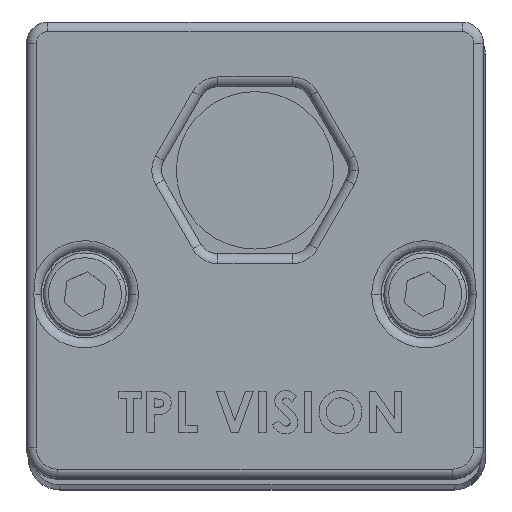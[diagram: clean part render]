
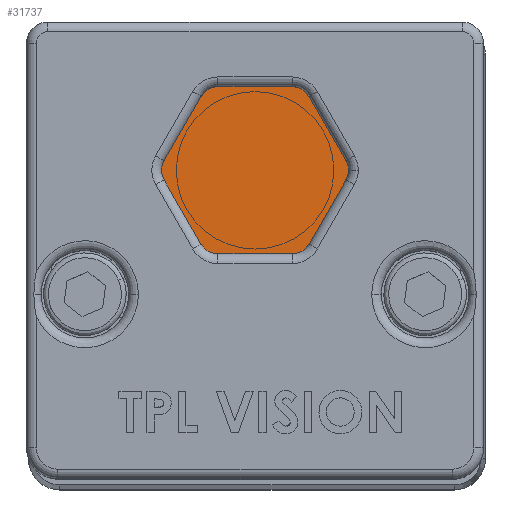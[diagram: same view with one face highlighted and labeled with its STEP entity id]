
A CAD part, top view. The second image highlights one B-rep face of the part: STEP entity #31737.
In plain terms, the highlighted planar face has unit normal (0, 0, 1).
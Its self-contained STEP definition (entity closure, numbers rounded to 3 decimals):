
#11967 = DIRECTION ( 'NONE',  ( -1., 0., 0. ) ) ;
#11968 = VECTOR ( 'NONE', #11967, 1000. ) ;
#11971 = CARTESIAN_POINT ( 'NONE',  ( -5.759, 23.1, 574.5 ) ) ;
#11972 = LINE ( 'NONE', #11971, #11968 ) ;
#11978 = CARTESIAN_POINT ( 'NONE',  ( -5.759, 23.1, 574.5 ) ) ;
#11980 = DIRECTION ( 'NONE',  ( 1., 0., 0. ) ) ;
#11982 = DIRECTION ( 'NONE',  ( 0., 0., 1. ) ) ;
#11983 = CARTESIAN_POINT ( 'NONE',  ( -5.759, 21.1, 574.5 ) ) ;
#11985 = AXIS2_PLACEMENT_3D ( 'NONE', #11983, #11982, #11980 ) ;
#11987 = CIRCLE ( 'NONE', #11985, 2. ) ;
#11994 = CARTESIAN_POINT ( 'NONE',  ( -4.027, 22.1, 574.5 ) ) ;
#11996 = DIRECTION ( 'NONE',  ( -0.5, 0.866, 0. ) ) ;
#11998 = VECTOR ( 'NONE', #11996, 1000. ) ;
#12000 = CARTESIAN_POINT ( 'NONE',  ( -0.217, 15.5, 574.5 ) ) ;
#12005 = DIRECTION ( 'NONE',  ( 1., 0., 0. ) ) ;
#12006 = DIRECTION ( 'NONE',  ( 0., 0., 1. ) ) ;
#12008 = CARTESIAN_POINT ( 'NONE',  ( -1.949, 14.5, 574.5 ) ) ;
#12010 = AXIS2_PLACEMENT_3D ( 'NONE', #12008, #12006, #12005 ) ;
#12012 = CIRCLE ( 'NONE', #12010, 2. ) ;
#12013 = LINE ( 'NONE', #12000, #11998 ) ;
#12638 = FACE_OUTER_BOUND ( 'NONE', #31738, .T. ) ;
#12715 = LINE ( 'NONE', #13088, #13087 ) ;
#12720 = CARTESIAN_POINT ( 'NONE',  ( -15.112, 22.1, 574.5 ) ) ;
#12722 = CARTESIAN_POINT ( 'NONE',  ( -13.38, 23.1, 574.5 ) ) ;
#12725 = DIRECTION ( 'NONE',  ( 1., 0., 0. ) ) ;
#12727 = DIRECTION ( 'NONE',  ( 0., 0., 1. ) ) ;
#12729 = CARTESIAN_POINT ( 'NONE',  ( -13.38, 21.1, 574.5 ) ) ;
#12730 = AXIS2_PLACEMENT_3D ( 'NONE', #12729, #12727, #12725 ) ;
#12736 = DIRECTION ( 'NONE',  ( 1., 0., 0. ) ) ;
#12738 = DIRECTION ( 'NONE',  ( 0., 0., 1. ) ) ;
#12740 = CARTESIAN_POINT ( 'NONE',  ( -13.38, 21.1, 574.5 ) ) ;
#12741 = AXIS2_PLACEMENT_3D ( 'NONE', #12740, #12738, #12736 ) ;
#12742 = CIRCLE ( 'NONE', #12730, 2. ) ;
#12747 = PLANE ( 'NONE',  #12741 ) ;
#13068 = CARTESIAN_POINT ( 'NONE',  ( -18.923, 13.5, 574.5 ) ) ;
#13070 = DIRECTION ( 'NONE',  ( 1., 0., 0. ) ) ;
#13072 = DIRECTION ( 'NONE',  ( 0., 0., 1. ) ) ;
#13074 = CARTESIAN_POINT ( 'NONE',  ( -17.191, 14.5, 574.5 ) ) ;
#13075 = AXIS2_PLACEMENT_3D ( 'NONE', #13074, #13072, #13070 ) ;
#13077 = CIRCLE ( 'NONE', #13075, 2. ) ;
#13083 = CARTESIAN_POINT ( 'NONE',  ( -18.923, 15.5, 574.5 ) ) ;
#13085 = DIRECTION ( 'NONE',  ( -0.5, -0.866, 0. ) ) ;
#13087 = VECTOR ( 'NONE', #13085, 1000. ) ;
#13088 = CARTESIAN_POINT ( 'NONE',  ( -15.112, 22.1, 574.5 ) ) ;
#13999 = CARTESIAN_POINT ( 'NONE',  ( -5.759, 5.9, 574.5 ) ) ;
#14000 = DIRECTION ( 'NONE',  ( 1., 0., 0. ) ) ;
#14001 = VECTOR ( 'NONE', #14000, 1000. ) ;
#14004 = CARTESIAN_POINT ( 'NONE',  ( -13.38, 5.9, 574.5 ) ) ;
#14006 = LINE ( 'NONE', #14004, #14001 ) ;
#14007 = CARTESIAN_POINT ( 'NONE',  ( -13.38, 5.9, 574.5 ) ) ;
#14008 = DIRECTION ( 'NONE',  ( 1., 0., 0. ) ) ;
#14009 = DIRECTION ( 'NONE',  ( 0., 0., 1. ) ) ;
#14011 = CARTESIAN_POINT ( 'NONE',  ( -13.38, 7.9, 574.5 ) ) ;
#14012 = AXIS2_PLACEMENT_3D ( 'NONE', #14011, #14009, #14008 ) ;
#14013 = CIRCLE ( 'NONE', #14012, 2. ) ;
#14015 = CARTESIAN_POINT ( 'NONE',  ( -15.112, 6.9, 574.5 ) ) ;
#14016 = DIRECTION ( 'NONE',  ( 0.5, -0.866, 0. ) ) ;
#14017 = VECTOR ( 'NONE', #14016, 1000. ) ;
#14018 = CARTESIAN_POINT ( 'NONE',  ( -18.923, 13.5, 574.5 ) ) ;
#14019 = LINE ( 'NONE', #14018, #14017 ) ;
#14151 = CARTESIAN_POINT ( 'NONE',  ( -0.217, 13.5, 574.5 ) ) ;
#14152 = DIRECTION ( 'NONE',  ( 0.5, 0.866, 0. ) ) ;
#14153 = VECTOR ( 'NONE', #14152, 1000. ) ;
#14155 = CARTESIAN_POINT ( 'NONE',  ( -4.027, 6.9, 574.5 ) ) ;
#14156 = LINE ( 'NONE', #14155, #14153 ) ;
#14157 = CARTESIAN_POINT ( 'NONE',  ( -4.027, 6.9, 574.5 ) ) ;
#14158 = DIRECTION ( 'NONE',  ( 1., 0., 0. ) ) ;
#14159 = DIRECTION ( 'NONE',  ( 0., 0., 1. ) ) ;
#14160 = CARTESIAN_POINT ( 'NONE',  ( -5.759, 7.9, 574.5 ) ) ;
#14162 = AXIS2_PLACEMENT_3D ( 'NONE', #14160, #14159, #14158 ) ;
#14163 = CIRCLE ( 'NONE', #14162, 2. ) ;
#28837 = EDGE_CURVE ( 'NONE', #28838, #28839, #35869, .T. ) ;
#28838 = VERTEX_POINT ( 'NONE', #35855 ) ;
#28839 = VERTEX_POINT ( 'NONE', #35854 ) ;
#31646 = ORIENTED_EDGE ( 'NONE', *, *, #31647, .T. ) ;
#31647 = EDGE_CURVE ( 'NONE', #31939, #28838, #12012, .T. ) ;
#31648 = ORIENTED_EDGE ( 'NONE', *, *, #28837, .T. ) ;
#31649 = ORIENTED_EDGE ( 'NONE', *, *, #31650, .T. ) ;
#31650 = EDGE_CURVE ( 'NONE', #28839, #31651, #12013, .T. ) ;
#31651 = VERTEX_POINT ( 'NONE', #11994 ) ;
#31652 = ORIENTED_EDGE ( 'NONE', *, *, #31653, .T. ) ;
#31653 = EDGE_CURVE ( 'NONE', #31651, #31654, #11987, .T. ) ;
#31654 = VERTEX_POINT ( 'NONE', #11978 ) ;
#31655 = ORIENTED_EDGE ( 'NONE', *, *, #31656, .T. ) ;
#31656 = EDGE_CURVE ( 'NONE', #31654, #31741, #11972, .T. ) ;
#31737 = ADVANCED_FACE ( 'NONE', ( #12638 ), #12747, .T. ) ;
#31738 = EDGE_LOOP ( 'NONE', ( #31739, #31743, #31746, #31925, #31928, #31931, #31934, #31937, #31646, #31648, #31649, #31652, #31655 ) ) ;
#31739 = ORIENTED_EDGE ( 'NONE', *, *, #31740, .T. ) ;
#31740 = EDGE_CURVE ( 'NONE', #31741, #31742, #12742, .T. ) ;
#31741 = VERTEX_POINT ( 'NONE', #12722 ) ;
#31742 = VERTEX_POINT ( 'NONE', #12720 ) ;
#31743 = ORIENTED_EDGE ( 'NONE', *, *, #31744, .T. ) ;
#31744 = EDGE_CURVE ( 'NONE', #31742, #31745, #12715, .T. ) ;
#31745 = VERTEX_POINT ( 'NONE', #13083 ) ;
#31746 = ORIENTED_EDGE ( 'NONE', *, *, #31747, .T. ) ;
#31747 = EDGE_CURVE ( 'NONE', #31745, #31748, #13077, .T. ) ;
#31748 = VERTEX_POINT ( 'NONE', #13068 ) ;
#31925 = ORIENTED_EDGE ( 'NONE', *, *, #31926, .T. ) ;
#31926 = EDGE_CURVE ( 'NONE', #31748, #31927, #14019, .T. ) ;
#31927 = VERTEX_POINT ( 'NONE', #14015 ) ;
#31928 = ORIENTED_EDGE ( 'NONE', *, *, #31929, .T. ) ;
#31929 = EDGE_CURVE ( 'NONE', #31927, #31930, #14013, .T. ) ;
#31930 = VERTEX_POINT ( 'NONE', #14007 ) ;
#31931 = ORIENTED_EDGE ( 'NONE', *, *, #31932, .T. ) ;
#31932 = EDGE_CURVE ( 'NONE', #31930, #31933, #14006, .T. ) ;
#31933 = VERTEX_POINT ( 'NONE', #13999 ) ;
#31934 = ORIENTED_EDGE ( 'NONE', *, *, #31935, .T. ) ;
#31935 = EDGE_CURVE ( 'NONE', #31933, #31936, #14163, .T. ) ;
#31936 = VERTEX_POINT ( 'NONE', #14157 ) ;
#31937 = ORIENTED_EDGE ( 'NONE', *, *, #31938, .T. ) ;
#31938 = EDGE_CURVE ( 'NONE', #31936, #31939, #14156, .T. ) ;
#31939 = VERTEX_POINT ( 'NONE', #14151 ) ;
#35854 = CARTESIAN_POINT ( 'NONE',  ( -0.217, 15.5, 574.5 ) ) ;
#35855 = CARTESIAN_POINT ( 'NONE',  ( 0.051, 14.5, 574.5 ) ) ;
#35861 = DIRECTION ( 'NONE',  ( 1., 0., 0. ) ) ;
#35862 = DIRECTION ( 'NONE',  ( 0., 0., 1. ) ) ;
#35863 = CARTESIAN_POINT ( 'NONE',  ( -1.949, 14.5, 574.5 ) ) ;
#35864 = AXIS2_PLACEMENT_3D ( 'NONE', #35863, #35862, #35861 ) ;
#35869 = CIRCLE ( 'NONE', #35864, 2. ) ;
